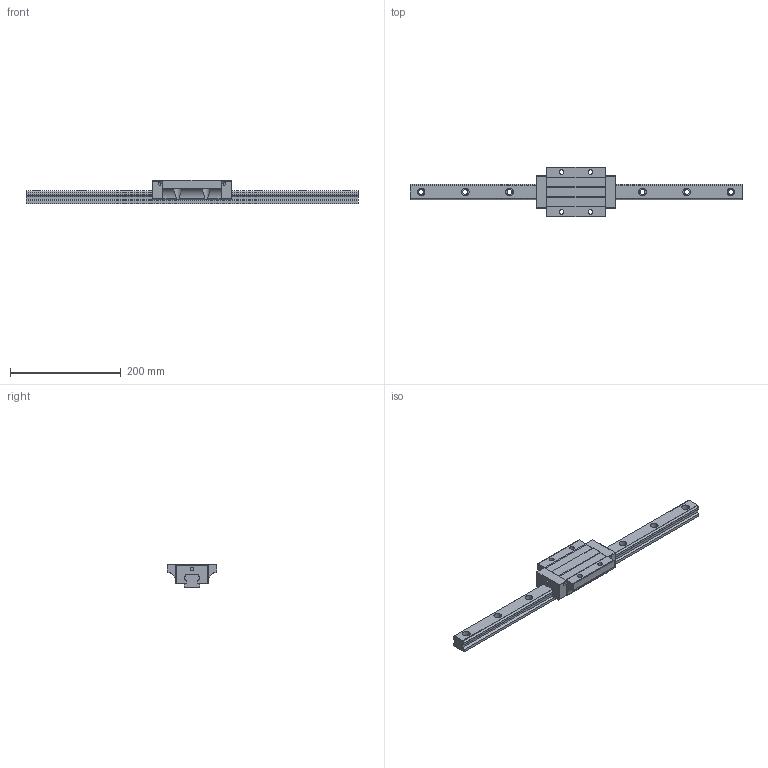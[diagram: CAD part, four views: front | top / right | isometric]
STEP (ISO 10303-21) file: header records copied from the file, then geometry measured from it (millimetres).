
FILE_DESCRIPTION (( 'STEP AP203' ), '1' );
FILE_NAME ('TRH30FE-WW.STEP', '2024-05-08T02:58:49', ( '' ), ( '' ), 'SwSTEP 2.0', 'SolidWorks 2022', '' );
FILE_SCHEMA (( 'CONFIG_CONTROL_DESIGN' ));
Length unit declared in the file: millimetre
Products named in the file (1): TRH30FE-WW
Bounding box: 600 x 90 x 42 mm (x, y, z)
Volume: 597713.5 mm3; surface area: 114070.8 mm2
Topology: 2 solids, 2 shells, 227 faces, 620 edges, 411 vertices
Faces by surface type: cylinder 124, plane 94, sphere 9
Entity records: 8026 total; most frequent: CARTESIAN_POINT 2069, ORIENTED_EDGE 1240, DIRECTION 1228, EDGE_CURVE 620, AXIS2_PLACEMENT_3D 439, VERTEX_POINT 411, VECTOR 350, LINE 350
